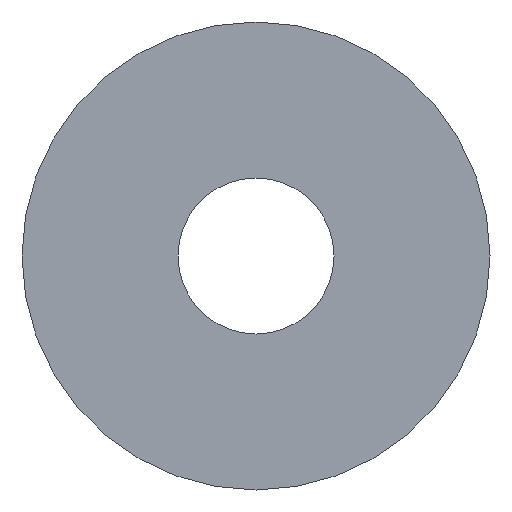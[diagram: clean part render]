
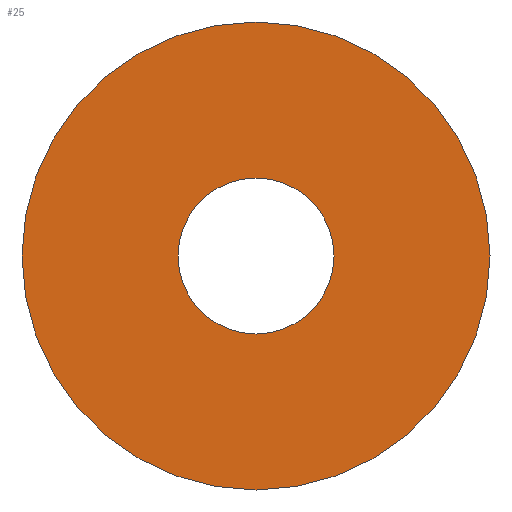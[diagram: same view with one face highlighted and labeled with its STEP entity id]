
A CAD part, front view. The second image highlights one B-rep face of the part: STEP entity #25.
In plain terms, the highlighted planar face has unit normal (0, -1, 0).
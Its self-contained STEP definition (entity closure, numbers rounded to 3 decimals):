
#3 = DIRECTION ( 'NONE',  ( 0., 1., 0. ) ) ;
#4 = DIRECTION ( 'NONE',  ( 0., 1., 0. ) ) ;
#5 = DIRECTION ( 'NONE',  ( 0., 0., 1. ) ) ;
#9 = VERTEX_POINT ( 'NONE', #127 ) ;
#14 = EDGE_LOOP ( 'NONE', ( #86, #155 ) ) ;
#19 = DIRECTION ( 'NONE',  ( 0., 0., 1. ) ) ;
#23 = AXIS2_PLACEMENT_3D ( 'NONE', #232, #4, #189 ) ;
#25 = ADVANCED_FACE ( 'NONE', ( #51, #224 ), #194, .F. ) ;
#27 = CARTESIAN_POINT ( 'NONE',  ( 0., 0., 0. ) ) ;
#34 = CARTESIAN_POINT ( 'NONE',  ( 0., 0., 15. ) ) ;
#40 = CIRCLE ( 'NONE', #23, 15. ) ;
#51 = FACE_OUTER_BOUND ( 'NONE', #67, .T. ) ;
#54 = DIRECTION ( 'NONE',  ( 0., 0., 1. ) ) ;
#57 = CARTESIAN_POINT ( 'NONE',  ( 0., 0., -5. ) ) ;
#59 = CARTESIAN_POINT ( 'NONE',  ( 0., 0., 0. ) ) ;
#62 = EDGE_CURVE ( 'NONE', #134, #102, #63, .T. ) ;
#63 = CIRCLE ( 'NONE', #115, 5. ) ;
#67 = EDGE_LOOP ( 'NONE', ( #241, #202 ) ) ;
#86 = ORIENTED_EDGE ( 'NONE', *, *, #62, .T. ) ;
#98 = AXIS2_PLACEMENT_3D ( 'NONE', #59, #3, #5 ) ;
#99 = DIRECTION ( 'NONE',  ( 0., 1., 0. ) ) ;
#102 = VERTEX_POINT ( 'NONE', #245 ) ;
#106 = CIRCLE ( 'NONE', #223, 5. ) ;
#114 = VERTEX_POINT ( 'NONE', #34 ) ;
#115 = AXIS2_PLACEMENT_3D ( 'NONE', #208, #142, #54 ) ;
#127 = CARTESIAN_POINT ( 'NONE',  ( 0., 0., -15. ) ) ;
#128 = AXIS2_PLACEMENT_3D ( 'NONE', #27, #99, #154 ) ;
#134 = VERTEX_POINT ( 'NONE', #57 ) ;
#135 = CIRCLE ( 'NONE', #98, 15. ) ;
#137 = DIRECTION ( 'NONE',  ( 0., 1., 0. ) ) ;
#142 = DIRECTION ( 'NONE',  ( 0., 1., 0. ) ) ;
#154 = DIRECTION ( 'NONE',  ( 0., 0., 1. ) ) ;
#155 = ORIENTED_EDGE ( 'NONE', *, *, #159, .T. ) ;
#159 = EDGE_CURVE ( 'NONE', #102, #134, #106, .T. ) ;
#189 = DIRECTION ( 'NONE',  ( 0., 0., 1. ) ) ;
#194 = PLANE ( 'NONE',  #128 ) ;
#202 = ORIENTED_EDGE ( 'NONE', *, *, #235, .F. ) ;
#207 = CARTESIAN_POINT ( 'NONE',  ( 0., 0., 0. ) ) ;
#208 = CARTESIAN_POINT ( 'NONE',  ( 0., 0., 0. ) ) ;
#212 = EDGE_CURVE ( 'NONE', #9, #114, #135, .T. ) ;
#223 = AXIS2_PLACEMENT_3D ( 'NONE', #207, #137, #19 ) ;
#224 = FACE_BOUND ( 'NONE', #14, .T. ) ;
#232 = CARTESIAN_POINT ( 'NONE',  ( 0., 0., 0. ) ) ;
#235 = EDGE_CURVE ( 'NONE', #114, #9, #40, .T. ) ;
#241 = ORIENTED_EDGE ( 'NONE', *, *, #212, .F. ) ;
#245 = CARTESIAN_POINT ( 'NONE',  ( 0., 0., 5. ) ) ;
